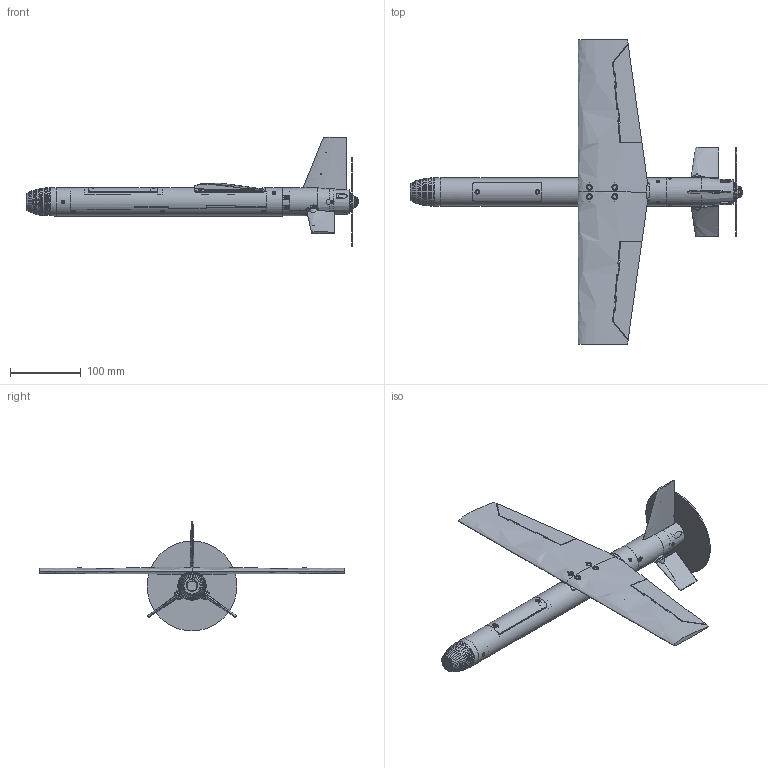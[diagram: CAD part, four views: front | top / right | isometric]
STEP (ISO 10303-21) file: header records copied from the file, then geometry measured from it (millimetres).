
FILE_DESCRIPTION(('SkyG Speed 90B - revision C6B-16 - 2026-10-13','C6B-assembly'),'2;1');
FILE_NAME('C6B-assembly_C6B-16','2026-10-13T19:26:19',('Author'),( 'Open CASCADE'),'Open CASCADE STEP processor 7.9','Open CASCADE 7.9' ,'Unknown');
FILE_SCHEMA(('AUTOMOTIVE_DESIGN { 1 0 10303 214 1 1 1 1 }'));
Length unit declared in the file: millimetre
Products named in the file (172): C4; N0M-nose-micro-camera; N0M-vtx-shelf; F3-tail-module; WR-wing-right; WL-wing-left; AR-aileron-right; AL-aileron-left; SR-stabilator-right; SL-stabilator-left; FN-fin; AHR-aileron-horn-right; AHL-aileron-horn-left; THR-tail-horn-right; THL-tail-horn-left; TR-equipment-tray; BF-battery-front-stop; TC-tail-coupler; CW-countersunk-washer; NB1-wing-nut-bar-front; NB2-wing-nut-bar-rear; HL1-hatch-lip-front; HL2-hatch-lip-rear; HF-front-hatch; WF-wing-window-filler; HG-gps-carrier; M1-motor-plate; SP-spinner; ENV-scr_mplate_R; ENV-cw_15; ENV-scr_mplate_L; ENV-cw_16; ENV-motor; ENV-prop_disc; ENV-prop_hub_nut; ENV-battery; ENV-camera_micro19; ENV-cam_screws; ENV-O_o4_camera; ENV-O_window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
Assembly tree (171 placements, depth 2):
  C4
    N0M-nose-micro-camera
    N0M-vtx-shelf
    F3-tail-module
    WR-wing-right
    WL-wing-left
    AR-aileron-right
    AL-aileron-left
    SR-stabilator-right
    SL-stabilator-left
    FN-fin
    AHR-aileron-horn-right
    AHL-aileron-horn-left
    THR-tail-horn-right
    THL-tail-horn-left
    TR-equipment-tray
    BF-battery-front-stop
    TC-tail-coupler
    CW-countersunk-washer
    NB1-wing-nut-bar-front
    NB2-wing-nut-bar-rear
    HL1-hatch-lip-front
    HL2-hatch-lip-rear
    HF-front-hatch
    WF-wing-window-filler
    HG-gps-carrier
    M1-motor-plate
    SP-spinner
    ENV-scr_mplate_R
    ENV-cw_15
    ENV-scr_mplate_L
    ENV-cw_16
    ENV-motor
    ENV-prop_disc
    ENV-prop_hub_nut
    ENV-battery
    ENV-camera_micro19
    ENV-cam_screws
    ENV-O_o4_camera
    ENV-O_window
    ENV-O_o4_screws
    ENV-O_o4_module
    ENV-vtx
    ENV-gnss
    ENV-flight_controller
    ENV-ail_servo_arm
    ENV-ail_rod_R
    ENV-ail_link_R
    ENV-ail_rod_L
    ENV-ail_link_L
    ENV-ail_spine_R
    ENV-ail_spine_L
    ENV-receiver
    ENV-ant_elrs
    ENV-ant_vtx
    ENV-O_ant_video
    ENV-aileron_servo
    ENV-tail_servo_L
    ENV-tail_servo_R
    ENV-esc
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Bounding box: 469.18 x 430 x 155.1 mm (x, y, z)
Volume: 487962.5 mm3; surface area: 353716.3 mm2
Topology: 221 solids, 223 shells, 2848 faces, 7154 edges, 4746 vertices
Faces by surface type: plane 1799, cylinder 612, bspline 235, cone 155, sphere 21, torus 15, revolution 11
Full cylindrical faces by diameter (mm): 0.98 x6, 1.107 x11, 1.2 x22, 1.25 x8, 1.5 x2, 1.6 x20, 1.65 x2, 1.75 x4, 1.9 x1, 2 x34, 2.1 x4, 2.2 x22, 2.5 x2, 2.6 x4, 2.842 x6, 3 x19, 3.05 x2, 3.2 x8, 3.3 x6, 3.8 x2, 3.9 x3, 3.94 x3, 4 x4, 4.9 x16, 5 x14, 5.2 x3, 5.5 x4, 5.6 x3, 6 x5, 6.3 x2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
Entity records: 481643 total; most frequent: CARTESIAN_POINT 343944, DIRECTION 21698, ORIENTED_EDGE 14266, PCURVE 14266, DEFINITIONAL_REPRESENTATION 14266, LINE 9991, VECTOR 9991, EDGE_CURVE 7133
